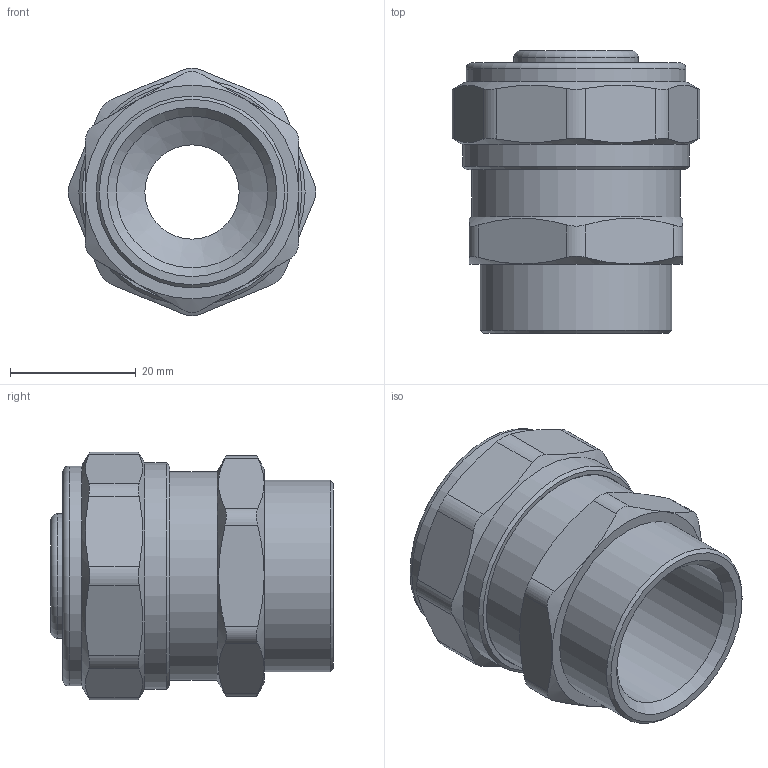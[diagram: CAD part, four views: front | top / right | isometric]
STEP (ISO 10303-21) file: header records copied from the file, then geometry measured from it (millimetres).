
FILE_DESCRIPTION(('STEP AP203'), '1');
FILE_NAME('VTm.302.N.002605', '', ('UNSPECIFIED'), ('UNSPECIFIED'), 'C3D Converter', 'C3D Toolkit', '');
FILE_SCHEMA(('CONFIG_CONTROL_DESIGN'));
Length unit declared in the file: millimetre
Products named in the file (1): ВР.302634.063.000 СБ
Bounding box: 39.39 x 45 x 39.39 mm (x, y, z)
Volume: 21630.9 mm3; surface area: 14815.1 mm2
Topology: 1 solids, 1 shells, 320 faces, 860 edges, 564 vertices
Faces by surface type: extrusion 123, plane 103, cylinder 43, torus 29, cone 22
Full cylindrical faces by diameter (mm): 15 x1, 17.4 x4, 19.8 x5, 20 x1, 24.118 x1, 26.2 x1, 26.7 x1, 30.292 x1, 30.5 x1, 33.249 x1, 35 x1, 36 x1
Entity records: 12587 total; most frequent: CARTESIAN_POINT 5373, ORIENTED_EDGE 1628, DIRECTION 1065, EDGE_CURVE 814, VERTEX_POINT 564, B_SPLINE_CURVE_WITH_KNOTS 476, VECTOR 459, EDGE_LOOP 390
